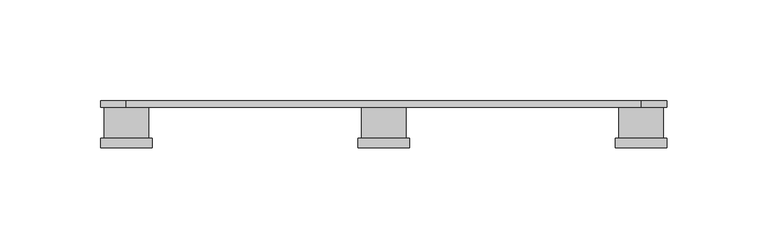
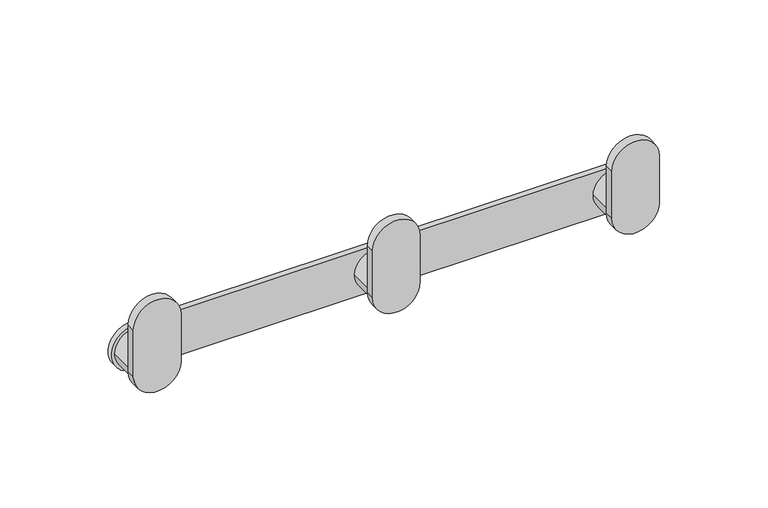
"""IFC4 building model written with IfcOpenShell, lengths in millimetres: furniture geometry, Stylex - Ambi - Coat Hook Planter : Stylex - Ambi - Coat Hook Planter."""

from ifc_helpers import new_model, si_unit, point, frame, frame_2d, origin, place, context, project, spatial, polyline, circle_curve, trimmed, segment, composite_curve, outline, extrude, source, transform, mapped, element, save


def furniture_f42f69dd(model_context):
    return source(origin(), model_context, "Body", "SweptSolid", [
        extrude(outline(composite_curve([segment(trimmed(circle_curve(frame_2d((1270.0, 127.7332373)), 12.7046435), [point((1270.0, 115.0285938))], [point((1270.0, 140.4378808))], False, "CARTESIAN"), True, "CONTINUOUS"), segment(polyline([(1270.0, 140.4378808), (1296.3277482, 140.4378808)]), True, "CONTINUOUS"), segment(trimmed(circle_curve(frame_2d((1296.3277482, 127.7332373)), 12.7046435), [point((1296.3277482, 140.4378808))], [point((1296.3277482, 115.0285938))], False, "CARTESIAN"), True, "CONTINUOUS"), segment(polyline([(1296.3277482, 115.0285938), (1270.0, 115.0285938)]), True, "CONTINUOUS")], self_intersect=False)), frame((0.0, -23.3943065, 0.0), z_axis=(0.0, 1.0, 0.0), x_axis=(0.0, 0.0, 1.0)), (0.0, 0.0, 1.0), 4.8853849),
        extrude(outline(composite_curve([segment(trimmed(circle_curve(frame_2d((1270.0, 127.7332373)), 11.0077898), [point((1270.0, 138.7410271))], [point((1270.0, 116.7254474))], False, "CARTESIAN"), True, "CONTINUOUS"), segment(trimmed(circle_curve(frame_2d((1270.0, 127.7332373)), 11.0077898), [point((1270.0, 116.7254474))], [point((1270.0, 138.7410271))], False, "CARTESIAN"), True, "CONTINUOUS")], self_intersect=False)), frame((0.0, -18.5089216, 0.0), z_axis=(0.0, 1.0, 0.0), x_axis=(0.0, 0.0, 1.0)), (0.0, 0.0, 1.0), 15.3339216),
        extrude(outline(composite_curve([segment(polyline([(1270.0, -115.0285938), (1296.3277482, -115.0285938)]), True, "CONTINUOUS"), segment(trimmed(circle_curve(frame_2d((1296.3277482, -127.7332373)), 12.7046435), [point((1296.3277482, -115.0285938))], [point((1296.3277482, -140.4378808))], False, "CARTESIAN"), True, "CONTINUOUS"), segment(polyline([(1296.3277482, -140.4378808), (1270.0, -140.4378808)]), True, "CONTINUOUS"), segment(trimmed(circle_curve(frame_2d((1270.0, -127.7332373)), 12.7046435), [point((1270.0, -140.4378808))], [point((1270.0, -115.0285938))], False, "CARTESIAN"), True, "CONTINUOUS")], self_intersect=False)), frame((0.0, -23.3943065, 0.0), z_axis=(0.0, 1.0, 0.0), x_axis=(0.0, 0.0, 1.0)), (0.0, 0.0, 1.0), 4.8853849),
        extrude(outline(composite_curve([segment(trimmed(circle_curve(frame_2d((1270.0, -127.7332373)), 11.0077898), [point((1270.0, -138.7410271))], [point((1270.0, -116.7254474))], False, "CARTESIAN"), True, "CONTINUOUS"), segment(trimmed(circle_curve(frame_2d((1270.0, -127.7332373)), 11.0077898), [point((1270.0, -116.7254474))], [point((1270.0, -138.7410271))], False, "CARTESIAN"), True, "CONTINUOUS")], self_intersect=False)), frame((0.0, -18.5089216, 0.0), z_axis=(0.0, 1.0, 0.0), x_axis=(0.0, 0.0, 1.0)), (0.0, 0.0, 1.0), 15.3339216),
        extrude(outline(composite_curve([segment(trimmed(circle_curve(frame_2d((1270.0, 127.7332373)), 12.7046435), [point((1257.2953565, 127.7332373))], [point((1282.7046435, 127.7332373))], False, "CARTESIAN"), True, "CONTINUOUS"), segment(polyline([(1282.7046435, 127.7332373), (1282.7046435, -127.7332373)]), True, "CONTINUOUS"), segment(trimmed(circle_curve(frame_2d((1270.0, -127.7332373)), 12.7046435), [point((1282.7046435, -127.7332373))], [point((1257.2953565, -127.7332373))], False, "CARTESIAN"), True, "CONTINUOUS"), segment(polyline([(1257.2953565, -127.7332373), (1257.2953565, 127.7332373)]), True, "CONTINUOUS")], self_intersect=False)), frame((0.0, -3.175, 0.0), z_axis=(0.0, 1.0, 0.0), x_axis=(0.0, 0.0, 1.0)), (0.0, 0.0, 1.0), 3.175),
        extrude(outline(composite_curve([segment(polyline([(1270.0, 12.7046435), (1296.3277482, 12.7046435)]), True, "CONTINUOUS"), segment(trimmed(circle_curve(frame_2d((1296.3277482, 0.0)), 12.7046435), [point((1296.3277482, 12.7046435))], [point((1296.3277482, -12.7046435))], False, "CARTESIAN"), True, "CONTINUOUS"), segment(polyline([(1296.3277482, -12.7046435), (1270.0, -12.7046435)]), True, "CONTINUOUS"), segment(trimmed(circle_curve(frame_2d((1270.0, 0.0)), 12.7046435), [point((1270.0, -12.7046435))], [point((1270.0, 12.7046435))], False, "CARTESIAN"), True, "CONTINUOUS")], self_intersect=False)), frame((0.0, -23.3943065, 0.0), z_axis=(0.0, 1.0, 0.0), x_axis=(0.0, 0.0, 1.0)), (0.0, 0.0, 1.0), 4.8853849),
        extrude(outline(composite_curve([segment(trimmed(circle_curve(frame_2d((1270.0, 0.0)), 11.0077898), [point((1270.0, -11.0077898))], [point((1270.0, 11.0077898))], False, "CARTESIAN"), True, "CONTINUOUS"), segment(trimmed(circle_curve(frame_2d((1270.0, 0.0)), 11.0077898), [point((1270.0, 11.0077898))], [point((1270.0, -11.0077898))], False, "CARTESIAN"), True, "CONTINUOUS")], self_intersect=False)), frame((0.0, -18.5089216, 0.0), z_axis=(0.0, 1.0, 0.0), x_axis=(0.0, 0.0, 1.0)), (0.0, 0.0, 1.0), 15.3339216),
    ])


if __name__ == "__main__":
    model = new_model("IFC4")
    model_context = context("Model", 3, world=origin())
    ifc_project = project(units=[si_unit("LENGTHUNIT", "METRE", prefix="MILLI")], contexts=[model_context])
    site = spatial("IfcSite", under=ifc_project)
    building = spatial("IfcBuilding", under=site)
    placement = place(None, origin())
    furniture_shape = furniture_f42f69dd(model_context)
    element("IfcFurniture", 1, ObjectType="Stylex - Ambi - Coat Hook Planter : Stylex - Ambi - Coat Hook Planter", at=placement, inside=building, context=model_context, shape_type="MappedRepresentation", body=[
        mapped(furniture_shape, transform((0.0, 0.0, 0.0), x_axis=(1.0, 0.0, 0.0), y_axis=(0.0, 1.0, 0.0), z_axis=(0.0, 0.0, 1.0))),
    ])
    save(model, "model.ifc")
